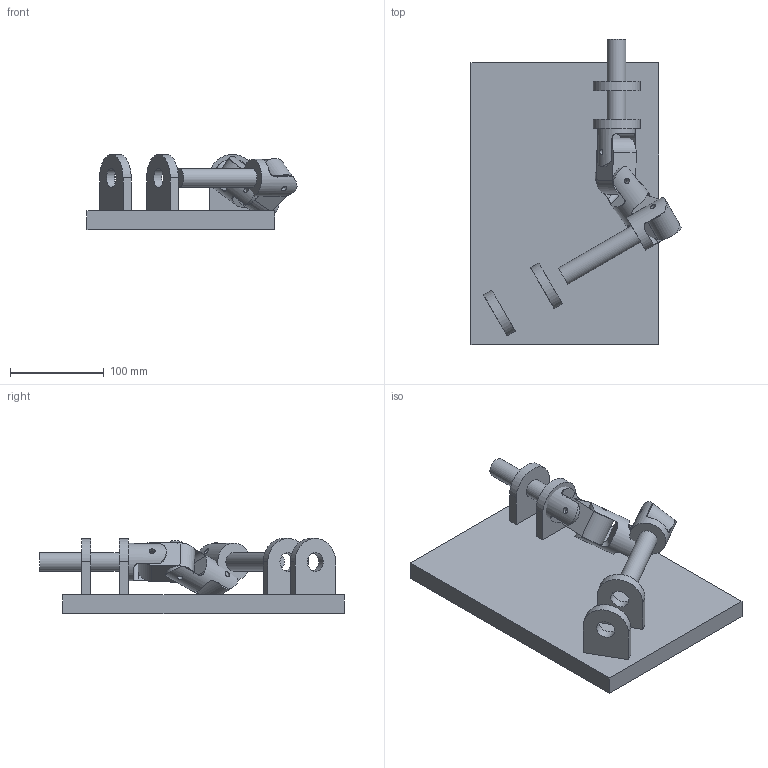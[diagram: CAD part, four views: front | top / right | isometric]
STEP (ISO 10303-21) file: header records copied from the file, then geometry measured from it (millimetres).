
FILE_DESCRIPTION(('STEP AP203'), '1');
FILE_NAME('忴蹜樇齕鴇_嵑謺麃_鏤罻', '', ('UNSPECIFIED'), ('UNSPECIFIED'), 'C3D Converter', 'C3D Toolkit', '');
FILE_SCHEMA(('CONFIG_CONTROL_DESIGN'));
Length unit declared in the file: millimetre
Assembly tree (6 placements, depth 2):
  (unnamed)
    (unnamed)
    (unnamed)
    (unnamed)
    (unnamed)
    (unnamed)
    (unnamed)
Bounding box: 223.64 x 324.71 x 80 mm (x, y, z)
Volume: 1508487 mm3; surface area: 220536.9 mm2
Topology: 6 solids, 6 shells, 115 faces, 281 edges, 183 vertices
Faces by surface type: plane 58, cylinder 57
Full cylindrical faces by diameter (mm): 6 x12, 20 x6, 40 x3
Entity records: 5715 total; most frequent: CARTESIAN_POINT 2722, ORIENTED_EDGE 518, DIRECTION 510, EDGE_CURVE 259, AXIS2_PLACEMENT_3D 187, VERTEX_POINT 183, EDGE_LOOP 174, FACE_BOUND 137
